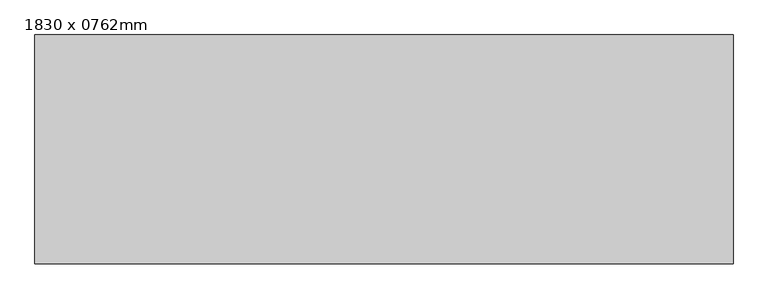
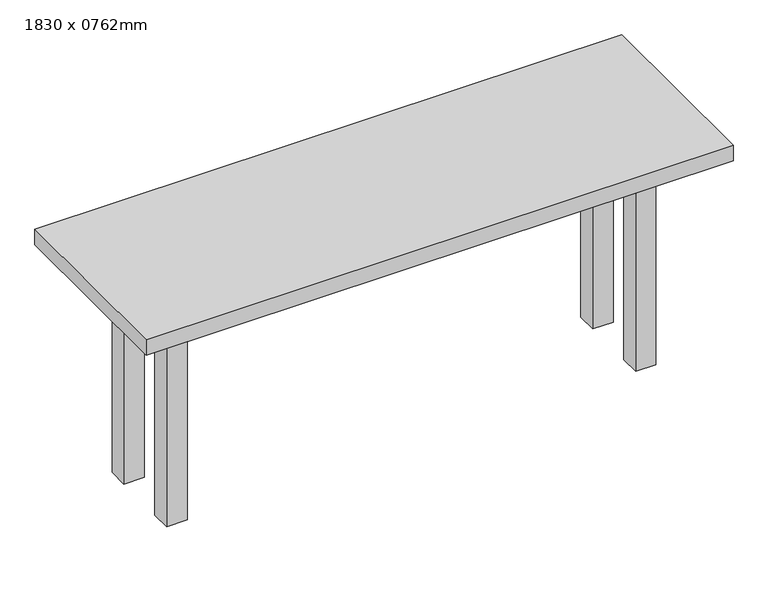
"""IFC4 building model written with IfcOpenShell, lengths in millimetres: furniture geometry, 桌子 - 矩形 : 1830 x 0762mm."""

from ifc_helpers import new_model, si_unit, frame, origin, origin_with_axes, place, context, project, spatial, polyline, outline, extrude, source, transform, mapped, element, save


def furniture_1830_x_0762mm_41534f7a(model_context):
    return source(origin(), model_context, "Body", "SweptSolid", [
        extrude(outline(polyline([(-699.1, 147.6), (-699.1, 84.1), (-762.6, 84.1), (-762.6, 147.6), (-699.1, 147.6)])), origin_with_axes(), (0.0, 0.0, 1.0), 711.2),
        extrude(outline(polyline([(699.1, 147.6), (762.6, 147.6), (762.6, 84.1), (699.1, 84.1), (699.1, 147.6)])), origin_with_axes(), (0.0, 0.0, 1.0), 711.2),
        extrude(outline(polyline([(-699.1, -147.6), (-762.6, -147.6), (-762.6, -84.1), (-699.1, -84.1), (-699.1, -147.6)])), origin_with_axes(), (0.0, 0.0, 1.0), 711.2),
        extrude(outline(polyline([(699.1, -147.6), (699.1, -84.1), (762.6, -84.1), (762.6, -147.6), (699.1, -147.6)])), origin_with_axes(), (0.0, 0.0, 1.0), 711.2),
        extrude(outline(polyline([(915.0, 300.0), (915.0, -300.0), (-915.0, -300.0), (-915.0, 300.0), (915.0, 300.0)])), frame((0.0, 0.0, 711.2), z_axis=(0.0, 0.0, 1.0), x_axis=(1.0, 0.0, 0.0)), (0.0, 0.0, 1.0), 50.8),
        extrude(outline(polyline([(699.1, 109.5), (699.1, 84.1), (-699.1, 84.1), (-699.1, 109.5), (699.1, 109.5)])), frame((0.0, 0.0, 609.6), z_axis=(0.0, 0.0, 1.0), x_axis=(1.0, 0.0, 0.0)), (0.0, 0.0, 1.0), 101.6),
        extrude(outline(polyline([(699.1, -109.5), (-699.1, -109.5), (-699.1, -84.1), (699.1, -84.1), (699.1, -109.5)])), frame((0.0, 0.0, 609.6), z_axis=(0.0, 0.0, 1.0), x_axis=(1.0, 0.0, 0.0)), (0.0, 0.0, 1.0), 101.6),
        extrude(outline(polyline([(-711.8, -84.1), (-737.2, -84.1), (-737.2, 84.1), (-711.8, 84.1), (-711.8, -84.1)])), frame((0.0, 0.0, 609.6), z_axis=(0.0, 0.0, 1.0), x_axis=(1.0, 0.0, 0.0)), (0.0, 0.0, 1.0), 101.6),
        extrude(outline(polyline([(711.8, -84.1), (711.8, 84.1), (737.2, 84.1), (737.2, -84.1), (711.8, -84.1)])), frame((0.0, 0.0, 609.6), z_axis=(0.0, 0.0, 1.0), x_axis=(1.0, 0.0, 0.0)), (0.0, 0.0, 1.0), 101.6),
    ])


if __name__ == "__main__":
    model = new_model("IFC4")
    model_context = context("Model", 3, world=origin())
    ifc_project = project(units=[si_unit("LENGTHUNIT", "METRE", prefix="MILLI")], contexts=[model_context])
    site = spatial("IfcSite", under=ifc_project)
    building = spatial("IfcBuilding", under=site)
    placement = place(None, origin())
    furniture_1830_x_0762mm_shape = furniture_1830_x_0762mm_41534f7a(model_context)
    element("IfcFurniture", 1, ObjectType="桌子 - 矩形 : 1830 x 0762mm", at=placement, inside=building, context=model_context, shape_type="MappedRepresentation", body=[
        mapped(furniture_1830_x_0762mm_shape, transform((0.0, 0.0, 0.0), x_axis=(1.0, 0.0, 0.0), y_axis=(0.0, 1.0, 0.0), z_axis=(0.0, 0.0, 1.0))),
    ])
    save(model, "model.ifc")
